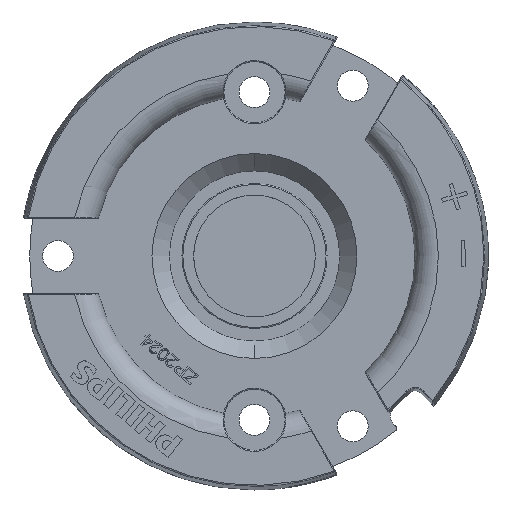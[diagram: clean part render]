
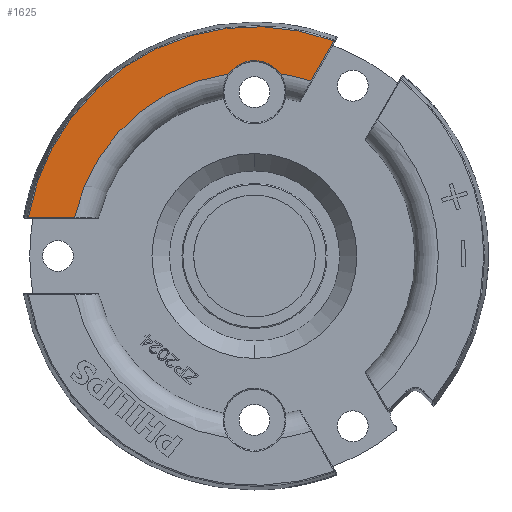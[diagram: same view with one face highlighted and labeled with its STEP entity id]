
A CAD part, front view. The second image highlights one B-rep face of the part: STEP entity #1625.
In plain terms, the highlighted planar face has unit normal (0, -1, 0).
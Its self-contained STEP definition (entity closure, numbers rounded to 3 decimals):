
#503=PLANE('',#15574);
#1625=ADVANCED_FACE('',(#2512),#503,.F.);
#2512=FACE_OUTER_BOUND('',#3300,.T.);
#3300=EDGE_LOOP('',(#6394,#6395,#6396,#6397,#6398,#6399,#6400));
#3878=CIRCLE('',#15539,24.506);
#3891=CIRCLE('',#15569,19.65);
#3892=CIRCLE('',#15571,3.375);
#3893=CIRCLE('',#15572,3.375);
#3894=CIRCLE('',#15573,19.65);
#6394=ORIENTED_EDGE('',*,*,#11067,.F.);
#6395=ORIENTED_EDGE('',*,*,#11114,.T.);
#6396=ORIENTED_EDGE('',*,*,#11113,.F.);
#6397=ORIENTED_EDGE('',*,*,#11115,.F.);
#6398=ORIENTED_EDGE('',*,*,#11116,.F.);
#6399=ORIENTED_EDGE('',*,*,#11117,.F.);
#6400=ORIENTED_EDGE('',*,*,#11118,.F.);
#9273=VERTEX_POINT('',#24642);
#9276=VERTEX_POINT('',#24650);
#9300=VERTEX_POINT('',#25144);
#9301=VERTEX_POINT('',#25277);
#9302=VERTEX_POINT('',#25282);
#9303=VERTEX_POINT('',#25284);
#9304=VERTEX_POINT('',#25286);
#11067=EDGE_CURVE('',#9273,#9276,#3878,.T.);
#11113=EDGE_CURVE('',#9301,#9300,#3891,.T.);
#11114=EDGE_CURVE('',#9273,#9300,#12880,.T.);
#11115=EDGE_CURVE('',#9302,#9301,#3892,.T.);
#11116=EDGE_CURVE('',#9303,#9302,#3893,.T.);
#11117=EDGE_CURVE('',#9304,#9303,#3894,.T.);
#11118=EDGE_CURVE('',#9276,#9304,#12881,.T.);
#12880=LINE('',#25280,#14363);
#12881=LINE('',#25287,#14364);
#14363=VECTOR('',#18082,1.);
#14364=VECTOR('',#18089,1.);
#15539=AXIS2_PLACEMENT_3D('',#24649,#18006,#18007);
#15569=AXIS2_PLACEMENT_3D('',#25278,#18078,#18079);
#15571=AXIS2_PLACEMENT_3D('',#25281,#18083,#18084);
#15572=AXIS2_PLACEMENT_3D('',#25283,#18085,#18086);
#15573=AXIS2_PLACEMENT_3D('',#25285,#18087,#18088);
#15574=AXIS2_PLACEMENT_3D('',#25288,#18090,#18091);
#18006=DIRECTION('',(0.,1.,0.));
#18007=DIRECTION('',(-0.986,0.,0.168));
#18078=DIRECTION('',(0.,-1.,0.));
#18079=DIRECTION('',(-0.14,0.,0.99));
#18082=DIRECTION('',(1.,0.,0.));
#18083=DIRECTION('',(0.,-1.,0.));
#18084=DIRECTION('',(-0.055,0.,0.999));
#18085=DIRECTION('',(0.,-1.,0.));
#18086=DIRECTION('',(0.815,0.,0.58));
#18087=DIRECTION('',(0.,-1.,0.));
#18088=DIRECTION('',(0.307,0.,0.952));
#18089=DIRECTION('',(-0.5,0.,-0.866));
#18090=DIRECTION('',(0.,1.,0.));
#18091=DIRECTION('',(-1.,0.,0.));
#24642=CARTESIAN_POINT('',(0.62,0.,-20.878));
#24649=CARTESIAN_POINT('',(24.777,0.,-25.003));
#24650=CARTESIAN_POINT('',(33.283,0.,-2.021));
#25144=CARTESIAN_POINT('',(5.565,0.,-20.878));
#25277=CARTESIAN_POINT('',(22.027,0.,-5.547));
#25278=CARTESIAN_POINT('',(24.777,0.,-25.003));
#25280=CARTESIAN_POINT('',(0.62,0.,-20.878));
#25281=CARTESIAN_POINT('',(24.777,0.,-7.503));
#25282=CARTESIAN_POINT('',(24.593,0.,-4.133));
#25283=CARTESIAN_POINT('',(24.777,0.,-7.503));
#25284=CARTESIAN_POINT('',(27.527,0.,-5.547));
#25285=CARTESIAN_POINT('',(24.777,0.,-25.003));
#25286=CARTESIAN_POINT('',(30.811,0.,-6.303));
#25287=CARTESIAN_POINT('',(33.283,0.,-2.021));
#25288=CARTESIAN_POINT('',(16.952,0.,-10.683));
